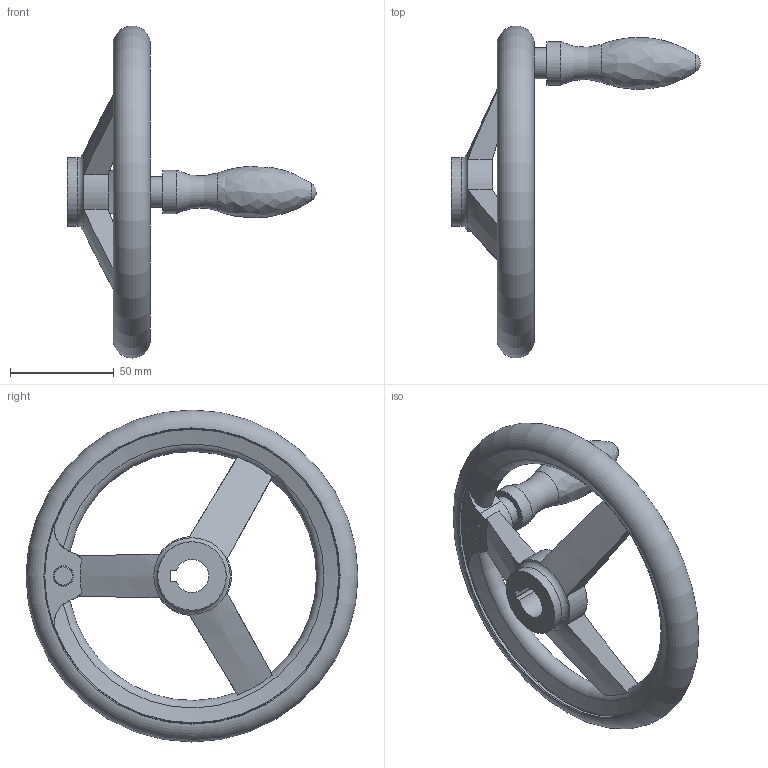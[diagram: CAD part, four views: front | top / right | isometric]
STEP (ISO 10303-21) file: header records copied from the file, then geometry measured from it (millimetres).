
FILE_DESCRIPTION( ( 'STEP AP203' ), '1' );
FILE_NAME( 'C:/Temp/Ganter_Step_05_03_2020/data/1_3/din_950/din_950_k/din_950_k_d/Handwheel DIN 950-AL-160-K16-D.stp', '2020-03-05T10:30:54', ( 'License CC BY-ND 4.0' ), ( 'CADENAS' ), ' ', 'PARTsolutions', ' ' );
FILE_SCHEMA( ( 'CONFIG_CONTROL_DESIGN' ) );
Length unit declared in the file: millimetre
Products named in the file (1): _Handwheel DIN 950-AL-160-K16-D
Bounding box: 120 x 159.98 x 159.98 mm (x, y, z)
Volume: 175268.3 mm3; surface area: 44130.5 mm2
Topology: 1 solids, 1 shells, 49 faces, 134 edges, 85 vertices
Faces by surface type: cylinder 15, plane 15, torus 11, cone 6, bspline 1, sphere 1
Full cylindrical faces by diameter (mm): 15 x1, 21 x1, 33 x2, 142 x2
Entity records: 1799 total; most frequent: CARTESIAN_POINT 637, DIRECTION 226, ORIENTED_EDGE 216, EDGE_CURVE 108, AXIS2_PLACEMENT_3D 102, VERTEX_POINT 81, EDGE_LOOP 75, FACE_OUTER_BOUND 64
